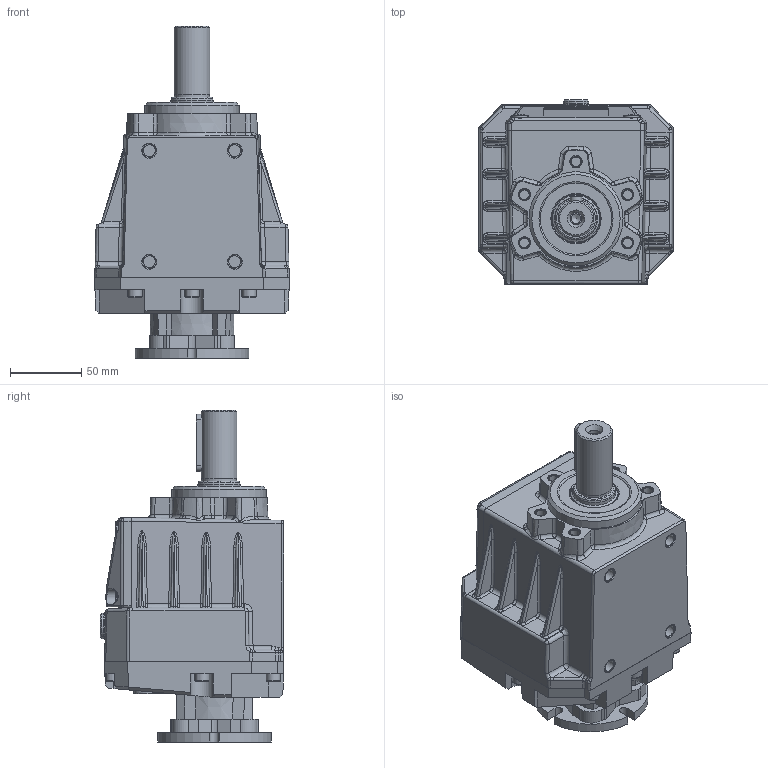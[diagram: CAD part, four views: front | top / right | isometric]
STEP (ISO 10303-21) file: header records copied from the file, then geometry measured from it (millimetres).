
FILE_DESCRIPTION( ( 'Unknown' ), '1' );
FILE_NAME( 'E:/services/configuratordownloads/customers/HYDROMEC/COASSIALI/download/C336295C59EC2714E9339FE2438F7/STEP/C336295C59EC2714E9339FE2438F7.3d.stp', 'Unknown', ( 'Unknown' ), ( 'Unknown' ), 'PSStep 10.1', 'Unknown', ' ' );
FILE_SCHEMA( ( 'AUTOMOTIVE_DESIGN { 1 0 10303 214 1 1 1 1 }' ) );
Length unit declared in the file: millimetre
Products named in the file (1): C418800
Bounding box: 136.8 x 129.13 x 233 mm (x, y, z)
Volume: 1871674.2 mm3; surface area: 137961.6 mm2
Topology: 1 solids, 14 shells, 1009 faces, 2463 edges, 1547 vertices
Faces by surface type: plane 509, cylinder 261, bspline 164, cone 44, torus 26, extrusion 3, sphere 2
Full cylindrical faces by diameter (mm): 4.917 x4, 6.5 x1, 6.647 x6, 7 x12, 8.376 x4, 8.4 x1, 9.9 x12, 10 x4, 11 x4, 12.5 x4, 13.5 x1, 18 x1, 19 x1, 22 x1, 24.6 x1, 25 x2, 30 x2, 40 x2, 66 x1
Entity records: 46688 total; most frequent: CARTESIAN_POINT 17051, ORIENTED_EDGE 4544, DIRECTION 3970, EDGE_CURVE 2272, VERTEX_POINT 1492, AXIS2_PLACEMENT_3D 1354, VECTOR 1262, LINE 1259
